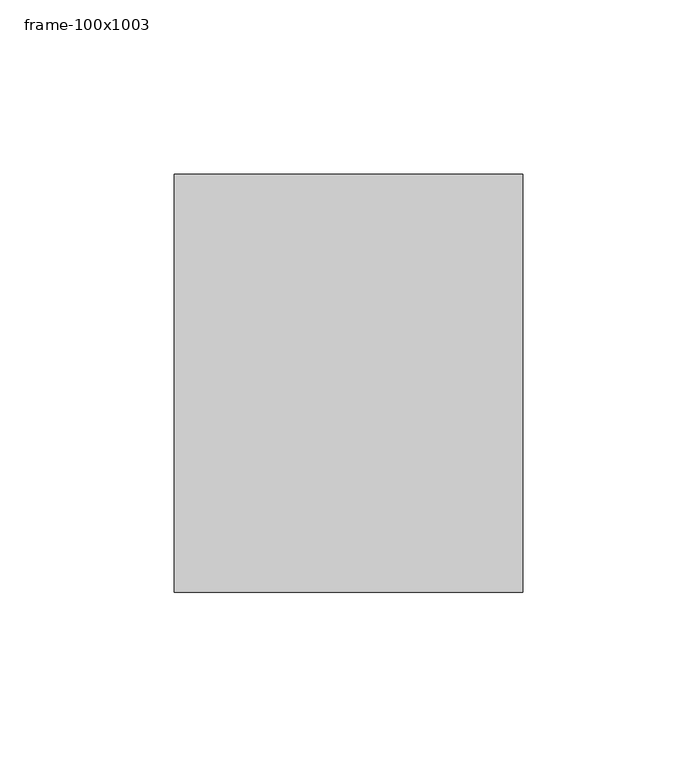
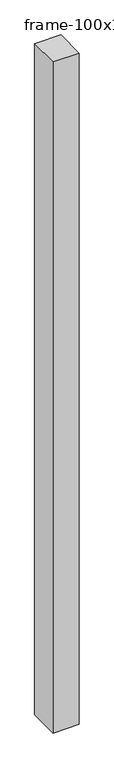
"""IFC4 building model written with IfcOpenShell, lengths in millimetres: member geometry, 長方形マリオン : frame-100x1003."""

from ifc_helpers import new_model, si_unit, frame, origin, place, context, project, spatial, polyline, outline, extrude, source, transform, mapped, element, save


def frame_100x1003_340101ea(model_context):
    return source(origin(), model_context, "Body", "SweptSolid", [
        extrude(outline(polyline([(0.0, 60.0), (0.0, -60.0), (-100.0, -60.0), (-100.0, 60.0), (0.0, 60.0)])), frame((0.0, 0.0, -2700.0), z_axis=(0.0, 0.0, 1.0), x_axis=(1.0, 0.0, 0.0)), (0.0, 0.0, 1.0), 2700.0),
    ])


if __name__ == "__main__":
    model = new_model("IFC4")
    model_context = context("Model", 3, world=origin())
    ifc_project = project(units=[si_unit("LENGTHUNIT", "METRE", prefix="MILLI")], contexts=[model_context])
    site = spatial("IfcSite", under=ifc_project)
    building = spatial("IfcBuilding", under=site)
    placement = place(None, origin())
    frame_100x1003_shape = frame_100x1003_340101ea(model_context)
    element("IfcMember", 1, ObjectType="長方形マリオン : frame-100x1003", at=placement, inside=building, context=model_context, shape_type="MappedRepresentation", body=[
        mapped(frame_100x1003_shape, transform((0.0, 0.0, 0.0), x_axis=(1.0, 0.0, 0.0), y_axis=(0.0, 1.0, 0.0), z_axis=(0.0, 0.0, 1.0))),
    ])
    save(model, "model.ifc")
